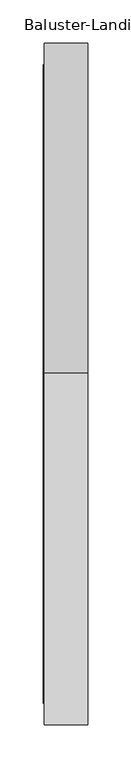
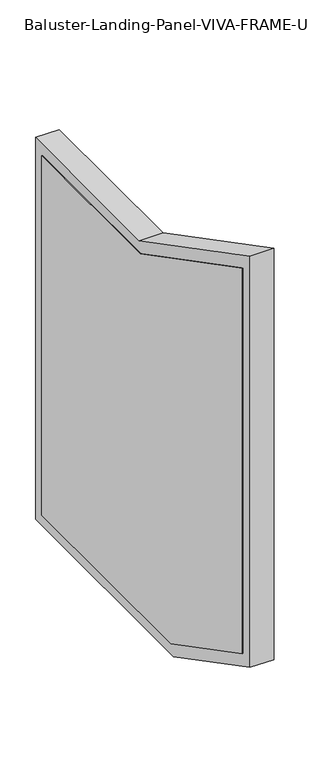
"""IFC4 building model written with IfcOpenShell, lengths in millimetres: railing geometry, Baluster-Landing-Panel-VIVA-FRAME-Upper : Standard_PP01."""

from ifc_helpers import new_model, si_unit, frame, origin, place, context, project, spatial, polyline, outline, extrude, faceted_brep, source, transform, mapped, element, save


def baluster_landing_panel_viva_frame_upper_standard_pp01_df324889(model_context):
    return source(origin(), model_context, "Body", "SolidModel", [
        extrude(outline(polyline([(-191.9097865, 93.7738148), (-669.906025, 93.7738148), (-933.9372584, 231.2197752), (-933.9372584, 1099.9720908), (-555.9876925, 903.224), (-191.9097865, 903.224), (-191.9097865, 93.7738148)])), frame((62.2681, 0.0, 0.0), z_axis=(1.0, 0.0, 0.0), x_axis=(0.0, 1.0, 0.0)), (0.0, 0.0, 1.0), 2.9972),
        faceted_brep([(63.7667, -549.772352, 928.624), (114.5667, -549.772352, 928.624), (114.5667, -166.5097865, 928.624), (63.7667, -166.5097865, 928.624), (114.5667, -166.5097865, 68.3738148), (63.7667, -166.5097865, 68.3738148), (114.5667, -959.3372584, 1141.8299953), (114.5667, -959.3372584, 215.8066768), (114.5667, -676.1213655, 68.3738148), (114.5667, -953.3428584, 219.4441681), (114.5667, -953.3428584, 1131.9515299), (114.5667, -551.2391723, 922.6296), (114.5667, -172.5041865, 922.6296), (114.5667, -172.5041865, 74.3682148), (114.5667, -674.6545451, 74.3682148), (63.7667, -676.1213655, 68.3738148), (63.7667, -959.3372584, 215.8066768), (63.7667, -959.3372584, 1141.8299953), (63.7667, -217.3097865, 877.824), (63.7667, -562.2030329, 877.824), (63.7667, -908.5372584, 1058.1141863), (63.7667, -908.5372584, 246.6328736), (63.7667, -663.6906845, 119.1738148), (63.7667, -217.3097865, 119.1738148), (83.7565, -562.2030329, 877.824), (83.7565, -217.3097865, 877.824), (83.7565, -217.3097865, 119.1738148), (83.7565, -663.6906845, 119.1738148), (83.7565, -172.5041865, 922.6296), (83.7565, -551.2391723, 922.6296), (83.7565, -953.3428584, 1131.9515299), (83.7565, -953.3428584, 219.4441681), (83.7565, -674.6545451, 74.3682148), (83.7565, -172.5041865, 74.3682148), (83.7565, -908.5372584, 246.6328736), (83.7565, -908.5372584, 1058.1141863)], [[[0, 1, 2, 3]], [[3, 2, 4, 5]], [[2, 1, 6, 7, 8, 4], [9, 10, 11, 12, 13, 14]], [[5, 4, 8, 15]], [[16, 17, 0, 3, 5, 15], [18, 19, 20, 21, 22, 23]], [[24, 19, 18, 25]], [[25, 18, 23, 26]], [[26, 23, 22, 27]], [[28, 29, 30, 31, 32, 33], [34, 35, 24, 25, 26, 27]], [[11, 29, 28, 12]], [[12, 28, 33, 13]], [[13, 33, 32, 14]], [[15, 8, 7, 16]], [[27, 22, 21, 34]], [[14, 32, 31, 9]], [[16, 7, 6, 17]], [[34, 21, 20, 35]], [[9, 31, 30, 10]], [[17, 6, 1, 0]], [[35, 20, 19, 24]], [[10, 30, 29, 11]]]),
    ])


if __name__ == "__main__":
    model = new_model("IFC4")
    model_context = context("Model", 3, world=origin())
    ifc_project = project(units=[si_unit("LENGTHUNIT", "METRE", prefix="MILLI")], contexts=[model_context])
    site = spatial("IfcSite", under=ifc_project)
    building = spatial("IfcBuilding", under=site)
    placement = place(None, origin())
    baluster_landing_panel_viva_frame_upper_standard_pp01_shape = baluster_landing_panel_viva_frame_upper_standard_pp01_df324889(model_context)
    element("IfcRailing", 1, ObjectType="Baluster-Landing-Panel-VIVA-FRAME-Upper : Standard_PP01", at=placement, inside=building, context=model_context, shape_type="MappedRepresentation", body=[
        mapped(baluster_landing_panel_viva_frame_upper_standard_pp01_shape, transform((0.0, 0.0, 0.0), x_axis=(1.0, 0.0, 0.0), y_axis=(0.0, 1.0, 0.0), z_axis=(0.0, 0.0, 1.0))),
    ])
    save(model, "model.ifc")
